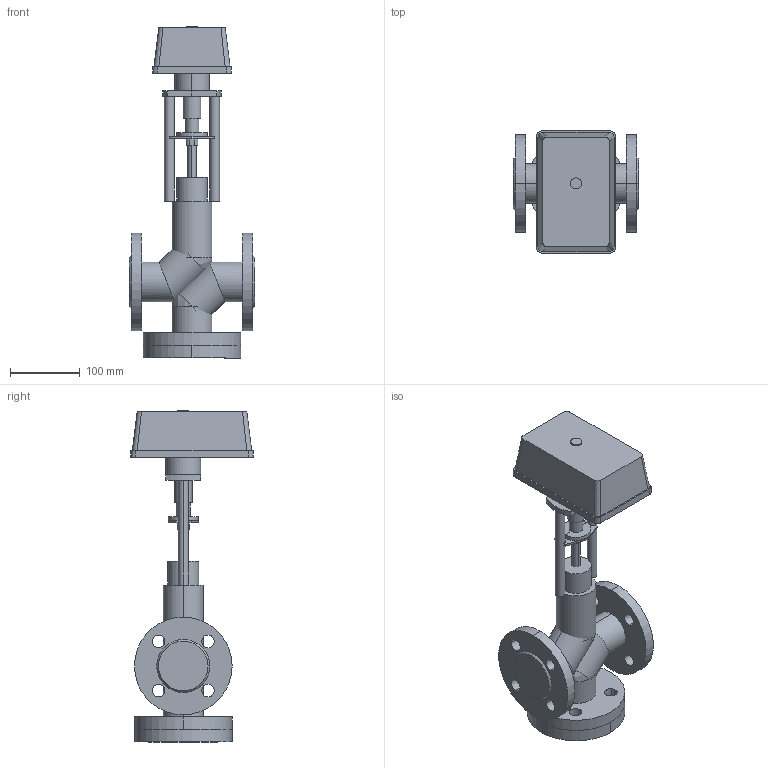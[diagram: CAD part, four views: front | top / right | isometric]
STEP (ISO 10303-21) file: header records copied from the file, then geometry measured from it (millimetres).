
FILE_DESCRIPTION(/* description */ (''),/* implementation_level */ '2;1');
FILE_NAME(/* name */ 'ТРК DN32 PN 2.5 МПа МИЭП-1 1600',/* time_stamp */ '2026-07-14T23:28:46+03:00',/* author */ (''),/* organization */ (''),/* preprocessor_version */ 'ST-DEVELOPER v20',/* originating_system */ '',/* authorisation */ '');
FILE_SCHEMA (('AP242_MANAGED_MODEL_BASED_3D_ENGINEERING_MIM_LF { 1 0 10303 442 1 1 4 }'));
Length unit declared in the file: millimetre
Products named in the file (14): TopLevelAssembly; Выдавливание; Модификатор; Модификатор_1; Выдавливание_
1; Выдавливание_
2; Вращение; Выдавливание_
3; Выдавливание_
4; 1600; Переход; Объемная геометрия 
присоединена; Полый Выдавливание; Объемная геометрия 
присоединена_1
Assembly tree (13 placements, depth 2):
  TopLevelAssembly
    Выдавливание
    Модификатор
    Модификатор_1
    Выдавливание_
1
    Выдавливание_
2
    Вращение
    Выдавливание_
3
    Выдавливание_
4
    1600
    Переход
    Объемная геометрия 
присоединена
    Полый Выдавливание
    Объемная геометрия 
присоединена_1
Bounding box: 180 x 175 x 476 mm (x, y, z)
Volume: 3265730.2 mm3; surface area: 430239.2 mm2
Topology: 23 solids, 23 shells, 171 faces, 357 edges, 226 vertices
Faces by surface type: cylinder 80, plane 79, bspline 8, cone 4
Entity records: 5215 total; most frequent: CARTESIAN_POINT 961, DIRECTION 909, ORIENTED_EDGE 698, AXIS2_PLACEMENT_3D 370, EDGE_CURVE 349, VERTEX_POINT 226, EDGE_LOOP 201, CIRCLE 172
